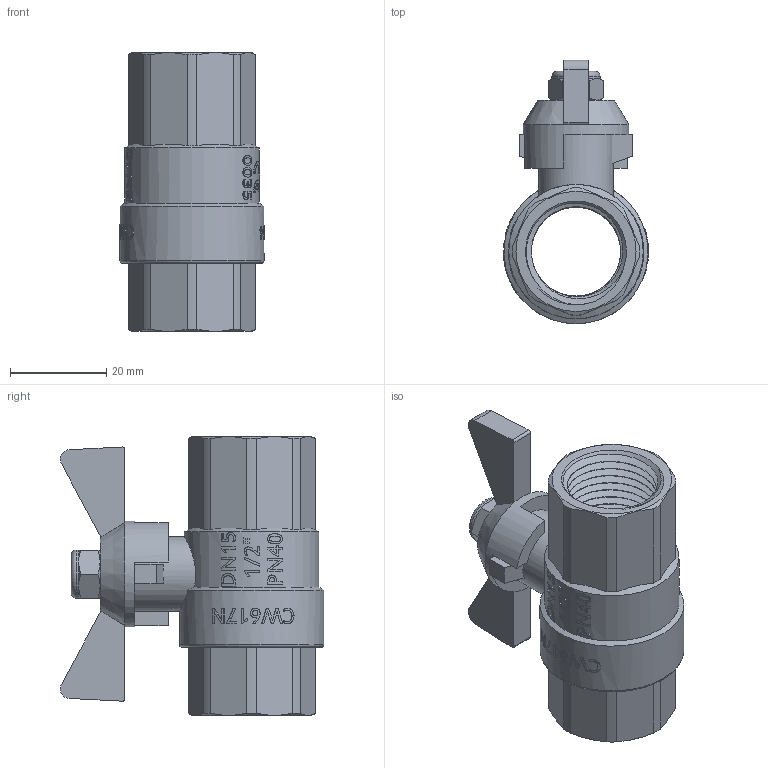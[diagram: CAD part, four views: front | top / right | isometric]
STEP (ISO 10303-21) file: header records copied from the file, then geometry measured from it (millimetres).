
FILE_DESCRIPTION(/* description */ (''),/* implementation_level */ '2;1');
FILE_NAME(/* name */ 'H:\Мишенин_3D\Исходные файлы 3D\VT.277.N.04.stp',/* time_stamp */ '2018-01-19T12:07:47+03:00',/* author */ ('MisheninAL'),/* organization */ (''),/* preprocessor_version */ 'ST-DEVELOPER v16.13',/* originating_system */ 'Autodesk Inventor 2018',/* authorisation */ '');
FILE_SCHEMA (('AUTOMOTIVE_DESIGN { 1 0 10303 214 3 1 1 }'));
Length unit declared in the file: millimetre
Products named in the file (1): VT.271_ВВ_1%2
Bounding box: 30.2 x 54.85 x 58.1 mm (x, y, z)
Surface area: 14926.8 mm2 (no closed solid volume)
Topology: 0 solids, 1 shells, 508 faces, 1362 edges, 899 vertices
Faces by surface type: plane 211, bspline 188, cylinder 87, cone 20, torus 2
Full cylindrical faces by diameter (mm): 10 x1, 15.5 x1, 18.6 x15, 22 x1, 28 x1, 30 x1
Entity records: 25861 total; most frequent: CARTESIAN_POINT 14794, ORIENTED_EDGE 2590, DIRECTION 1766, EDGE_CURVE 1295, VERTEX_POINT 859, LINE 604, VECTOR 604, AXIS2_PLACEMENT_3D 581
